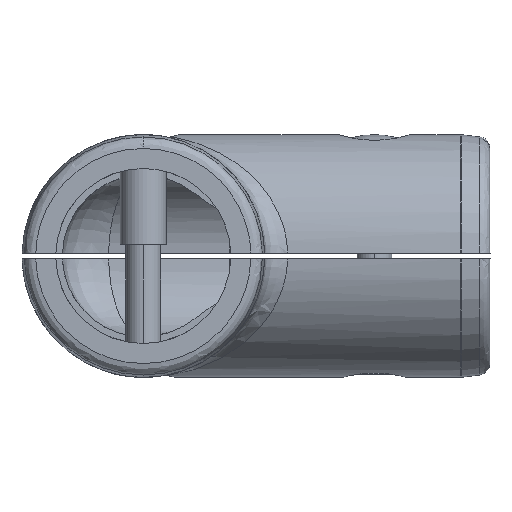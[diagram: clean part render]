
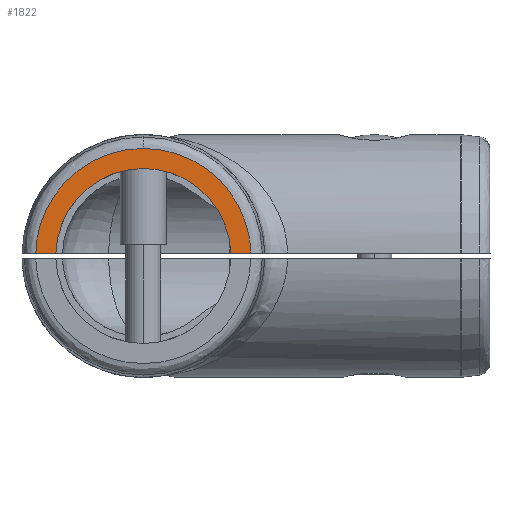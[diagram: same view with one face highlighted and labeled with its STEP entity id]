
A CAD part, front view. The second image highlights one B-rep face of the part: STEP entity #1822.
In plain terms, the highlighted planar face has unit normal (0, -1, 0).
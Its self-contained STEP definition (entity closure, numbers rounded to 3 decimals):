
#67 = CARTESIAN_POINT ( 'NONE',  ( 2.551, 0., 2.731 ) ) ;
#274 = CARTESIAN_POINT ( 'NONE',  ( 39.323, 0., 11.171 ) ) ;
#345 = CARTESIAN_POINT ( 'NONE',  ( 21., 0., 18.617 ) ) ;
#468 = VECTOR ( 'NONE', #8443, 1000. ) ;
#660 = VERTEX_POINT ( 'NONE', #3189 ) ;
#665 = CARTESIAN_POINT ( 'NONE',  ( 11.885, 0., 16.238 ) ) ;
#704 = CARTESIAN_POINT ( 'NONE',  ( 9.9, 0., 14.999 ) ) ;
#1412 = CARTESIAN_POINT ( 'NONE',  ( 19.601, 0., 18.579 ) ) ;
#1451 = CARTESIAN_POINT ( 'NONE',  ( 17.731, 0., 18.327 ) ) ;
#1520 = CARTESIAN_POINT ( 'NONE',  ( 4.053, 0., 7.709 ) ) ;
#1822 = ADVANCED_FACE ( 'NONE', ( #8136 ), #6855, .T. ) ;
#1974 = CARTESIAN_POINT ( 'NONE',  ( 21., 0., 18.617 ) ) ;
#2054 = CIRCLE ( 'NONE', #4565, 15.15 ) ;
#2229 = CARTESIAN_POINT ( 'NONE',  ( 14.319, 0., 17.376 ) ) ;
#2304 = CARTESIAN_POINT ( 'NONE',  ( 17.698, 0., 18.321 ) ) ;
#2344 = CARTESIAN_POINT ( 'NONE',  ( 3.944, 0., 7.462 ) ) ;
#2373 = EDGE_CURVE ( 'NONE', #9491, #660, #4358, .T. ) ;
#2385 = CARTESIAN_POINT ( 'NONE',  ( 17.903, 0., 18.357 ) ) ;
#3042 = CARTESIAN_POINT ( 'NONE',  ( 4.28, 0., 8.198 ) ) ;
#3087 = CARTESIAN_POINT ( 'NONE',  ( 5.776, 0., 10.715 ) ) ;
#3124 = CARTESIAN_POINT ( 'NONE',  ( 17.078, 0., 18.208 ) ) ;
#3160 = CARTESIAN_POINT ( 'NONE',  ( 2.836, 0., 4.083 ) ) ;
#3189 = CARTESIAN_POINT ( 'NONE',  ( 2.39, 0., 0.5 ) ) ;
#3590 = CARTESIAN_POINT ( 'NONE',  ( -0.457, 0., 0.5 ) ) ;
#3727 = CARTESIAN_POINT ( 'NONE',  ( 42., 0., 0. ) ) ;
#3818 = CARTESIAN_POINT ( 'NONE',  ( 21., 0., 18.617 ) ) ;
#3856 = CARTESIAN_POINT ( 'NONE',  ( 12.832, 0., 16.749 ) ) ;
#3894 = CARTESIAN_POINT ( 'NONE',  ( 3.898, 0., 7.356 ) ) ;
#3968 = CARTESIAN_POINT ( 'NONE',  ( 2.797, 0., 3.902 ) ) ;
#4358 = B_SPLINE_CURVE_WITH_KNOTS ( 'NONE', 3,
 ( #3818, #7194, #1412, #7890, #8678, #2385, #7129, #1451, #2304, #3124, #10381, #9618, #9542, #5608, #8014, #2229, #8827, #7968, #3856, #665, #4736, #7931, #10342, #5528, #704, #9579, #4694, #6351, #7162, #4808, #3087, #10416, #8708, #7048, #7858, #3042, #1520, #2344, #3894, #9468, #10268, #9514, #10306, #5500, #6304, #3160, #8794, #3968, #8169, #67, #9780, #9714 ),
 .UNSPECIFIED., .F., .F.,
 ( 4, 1, 1, 1, 1, 2, 2, 1, 1, 1, 1, 2, 2, 1, 1, 1, 2, 2, 2, 1, 1, 1, 2, 2, 1, 1, 1, 1, 2, 2, 1, 1, 1, 1, 2, 2, 4 ),
 ( 0., 0.063, 0.094, 0.109, 0.117, 0.121, 0.125, 0.188, 0.219, 0.234, 0.242, 0.246, 0.25, 0.313, 0.344, 0.359, 0.367, 0.375, 0.5, 0.563, 0.594, 0.609, 0.617, 0.625, 0.688, 0.719, 0.734, 0.742, 0.746, 0.75, 0.813, 0.844, 0.859, 0.867, 0.871, 0.875, 1. ),
 .UNSPECIFIED. ) ;
#4520 = DIRECTION ( 'NONE',  ( 1., 0., 0. ) ) ;
#4561 = DIRECTION ( 'NONE',  ( 1., 0., 0. ) ) ;
#4565 = AXIS2_PLACEMENT_3D ( 'NONE', #4821, #5576, #4996 ) ;
#4609 = VERTEX_POINT ( 'NONE', #7480 ) ;
#4672 = ORIENTED_EDGE ( 'NONE', *, *, #8401, .F. ) ;
#4694 = CARTESIAN_POINT ( 'NONE',  ( 7.562, 0., 12.9 ) ) ;
#4736 = CARTESIAN_POINT ( 'NONE',  ( 11.42, 0., 15.964 ) ) ;
#4808 = CARTESIAN_POINT ( 'NONE',  ( 5.912, 0., 10.907 ) ) ;
#4820 = CARTESIAN_POINT ( 'NONE',  ( 36.142, 0., 0.5 ) ) ;
#4821 = CARTESIAN_POINT ( 'NONE',  ( 21., 0., 0. ) ) ;
#4996 = DIRECTION ( 'NONE',  ( -1., 0., 0. ) ) ;
#5264 = CARTESIAN_POINT ( 'NONE',  ( 31.675, 0., 18.617 ) ) ;
#5340 = EDGE_CURVE ( 'NONE', #9422, #7724, #8002, .T. ) ;
#5500 = CARTESIAN_POINT ( 'NONE',  ( 3.019, 0., 4.839 ) ) ;
#5528 = CARTESIAN_POINT ( 'NONE',  ( 11.028, 0., 15.721 ) ) ;
#5576 = DIRECTION ( 'NONE',  ( 0., 1., 0. ) ) ;
#5608 = CARTESIAN_POINT ( 'NONE',  ( 14.492, 0., 17.442 ) ) ;
#5769 = LINE ( 'NONE', #3590, #468 ) ;
#6127 = CARTESIAN_POINT ( 'NONE',  ( 39.61, 0., 0.5 ) ) ;
#6134 = DIRECTION ( 'NONE',  ( 0., -1., 0. ) ) ;
#6304 = CARTESIAN_POINT ( 'NONE',  ( 2.894, 0., 4.336 ) ) ;
#6335 =( BOUNDED_CURVE ( )  B_SPLINE_CURVE ( 3, ( #1974, #5264, #274, #9233 ),
 .UNSPECIFIED., .F., .T. ) 
 B_SPLINE_CURVE_WITH_KNOTS ( ( 4, 4 ),
 ( 0., 1. ),
 .UNSPECIFIED. ) 
 CURVE ( )  GEOMETRIC_REPRESENTATION_ITEM ( )  RATIONAL_B_SPLINE_CURVE ( ( 1., 0.811, 0.811, 1. ) ) 
 REPRESENTATION_ITEM ( '' )  );
#6351 = CARTESIAN_POINT ( 'NONE',  ( 6.922, 0., 12.21 ) ) ;
#6433 = ORIENTED_EDGE ( 'NONE', *, *, #10088, .T. ) ;
#6855 = PLANE ( 'NONE',  #8456 ) ;
#7048 = CARTESIAN_POINT ( 'NONE',  ( 5.25, 0., 9.945 ) ) ;
#7088 = ORIENTED_EDGE ( 'NONE', *, *, #5340, .T. ) ;
#7129 = CARTESIAN_POINT ( 'NONE',  ( 17.8, 0., 18.339 ) ) ;
#7162 = CARTESIAN_POINT ( 'NONE',  ( 6.238, 0., 11.351 ) ) ;
#7194 = CARTESIAN_POINT ( 'NONE',  ( 20.439, 0., 18.617 ) ) ;
#7297 = ORIENTED_EDGE ( 'NONE', *, *, #9680, .T. ) ;
#7480 = CARTESIAN_POINT ( 'NONE',  ( 5.858, 0., 0.5 ) ) ;
#7724 = VERTEX_POINT ( 'NONE', #6127 ) ;
#7858 = CARTESIAN_POINT ( 'NONE',  ( 4.77, 0., 9.156 ) ) ;
#7890 = CARTESIAN_POINT ( 'NONE',  ( 18.629, 0., 18.469 ) ) ;
#7931 = CARTESIAN_POINT ( 'NONE',  ( 11.223, 0., 15.843 ) ) ;
#7968 = CARTESIAN_POINT ( 'NONE',  ( 13.674, 0., 17.126 ) ) ;
#8002 = LINE ( 'NONE', #8442, #9131 ) ;
#8014 = CARTESIAN_POINT ( 'NONE',  ( 14.388, 0., 17.403 ) ) ;
#8136 = FACE_OUTER_BOUND ( 'NONE', #9870, .T. ) ;
#8169 = CARTESIAN_POINT ( 'NONE',  ( 2.789, 0., 3.863 ) ) ;
#8401 = EDGE_CURVE ( 'NONE', #9491, #7724, #6335, .T. ) ;
#8442 = CARTESIAN_POINT ( 'NONE',  ( -0.457, 0., 0.5 ) ) ;
#8443 = DIRECTION ( 'NONE',  ( 1., 0., 0. ) ) ;
#8456 = AXIS2_PLACEMENT_3D ( 'NONE', #3727, #6134, #4561 ) ;
#8678 = CARTESIAN_POINT ( 'NONE',  ( 18.145, 0., 18.397 ) ) ;
#8708 = CARTESIAN_POINT ( 'NONE',  ( 5.64, 0., 10.519 ) ) ;
#8794 = CARTESIAN_POINT ( 'NONE',  ( 2.812, 0., 3.974 ) ) ;
#8827 = CARTESIAN_POINT ( 'NONE',  ( 14.286, 0., 17.364 ) ) ;
#9131 = VECTOR ( 'NONE', #4520, 1000. ) ;
#9233 = CARTESIAN_POINT ( 'NONE',  ( 39.61, 0., 0.5 ) ) ;
#9422 = VERTEX_POINT ( 'NONE', #4820 ) ;
#9468 = CARTESIAN_POINT ( 'NONE',  ( 3.868, 0., 7.285 ) ) ;
#9491 = VERTEX_POINT ( 'NONE', #345 ) ;
#9514 = CARTESIAN_POINT ( 'NONE',  ( 3.608, 0., 6.667 ) ) ;
#9542 = CARTESIAN_POINT ( 'NONE',  ( 14.736, 0., 17.532 ) ) ;
#9579 = CARTESIAN_POINT ( 'NONE',  ( 8.917, 0., 14.219 ) ) ;
#9618 = CARTESIAN_POINT ( 'NONE',  ( 15.225, 0., 17.703 ) ) ;
#9680 = EDGE_CURVE ( 'NONE', #660, #4609, #5769, .T. ) ;
#9714 = CARTESIAN_POINT ( 'NONE',  ( 2.39, 0., 0.5 ) ) ;
#9780 = CARTESIAN_POINT ( 'NONE',  ( 2.42, 0., 1.622 ) ) ;
#9870 = EDGE_LOOP ( 'NONE', ( #4672, #9988, #7297, #6433, #7088 ) ) ;
#9988 = ORIENTED_EDGE ( 'NONE', *, *, #2373, .T. ) ;
#10088 = EDGE_CURVE ( 'NONE', #4609, #9422, #2054, .T. ) ;
#10268 = CARTESIAN_POINT ( 'NONE',  ( 3.852, 0., 7.248 ) ) ;
#10306 = CARTESIAN_POINT ( 'NONE',  ( 3.303, 0., 5.833 ) ) ;
#10342 = CARTESIAN_POINT ( 'NONE',  ( 11.092, 0., 15.761 ) ) ;
#10381 = CARTESIAN_POINT ( 'NONE',  ( 16.213, 0., 18.008 ) ) ;
#10416 = CARTESIAN_POINT ( 'NONE',  ( 5.686, 0., 10.586 ) ) ;
